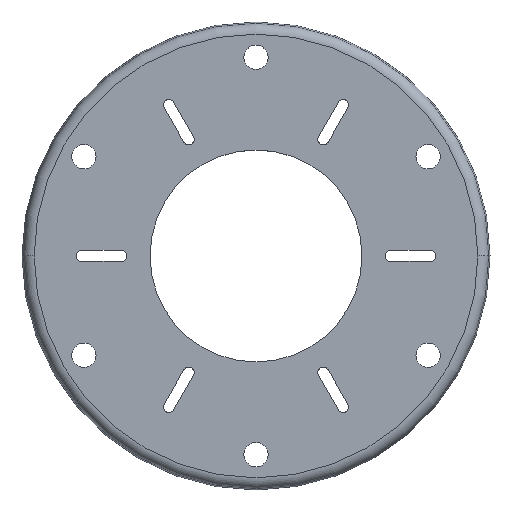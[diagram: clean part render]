
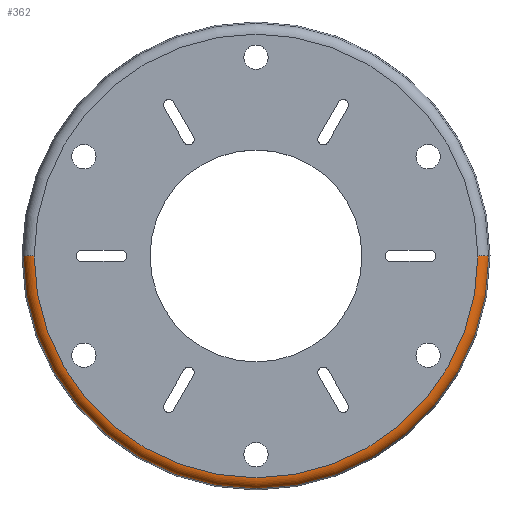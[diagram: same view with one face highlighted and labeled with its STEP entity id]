
A CAD part, top view. The second image highlights one B-rep face of the part: STEP entity #362.
In plain terms, the highlighted toroidal (fillet/blend) face has major radius 50.248 mm and minor radius 2.5 mm.
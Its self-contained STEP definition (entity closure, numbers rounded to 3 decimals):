
#19 = VERTEX_POINT ( 'NONE', #246 ) ;
#41 = AXIS2_PLACEMENT_3D ( 'NONE', #1171, #168, #431 ) ;
#42 = CARTESIAN_POINT ( 'NONE',  ( 0., 0., 0. ) ) ;
#67 = CIRCLE ( 'NONE', #1338, 2.5 ) ;
#69 = CARTESIAN_POINT ( 'NONE',  ( 0., 0., -1.853 ) ) ;
#116 = DIRECTION ( 'NONE',  ( 0., 0., 1. ) ) ;
#123 = DIRECTION ( 'NONE',  ( 1., 0., 0. ) ) ;
#168 = DIRECTION ( 'NONE',  ( 0., -1., 0. ) ) ;
#183 = DIRECTION ( 'NONE',  ( 0., 1., 0. ) ) ;
#190 = EDGE_CURVE ( 'NONE', #1847, #1824, #1094, .T. ) ;
#217 = CARTESIAN_POINT ( 'NONE',  ( 0., 0., -2.5 ) ) ;
#246 = CARTESIAN_POINT ( 'NONE',  ( -50.248, 0., 0. ) ) ;
#276 = AXIS2_PLACEMENT_3D ( 'NONE', #69, #116, #679 ) ;
#362 = ADVANCED_FACE ( 'NONE', ( #498 ), #1096, .T. ) ;
#363 = ORIENTED_EDGE ( 'NONE', *, *, #1403, .F. ) ;
#431 = DIRECTION ( 'NONE',  ( 0., 0., -1. ) ) ;
#498 = FACE_OUTER_BOUND ( 'NONE', #1107, .T. ) ;
#679 = DIRECTION ( 'NONE',  ( 1., 0., 0. ) ) ;
#799 = VERTEX_POINT ( 'NONE', #1114 ) ;
#812 = DIRECTION ( 'NONE',  ( 0., 0., 1. ) ) ;
#864 = CIRCLE ( 'NONE', #1687, 50.248 ) ;
#917 = ORIENTED_EDGE ( 'NONE', *, *, #190, .T. ) ;
#949 = DIRECTION ( 'NONE',  ( 0., 0., 1. ) ) ;
#1082 = DIRECTION ( 'NONE',  ( -1., 0., 0. ) ) ;
#1094 = CIRCLE ( 'NONE', #41, 2.5 ) ;
#1096 = TOROIDAL_SURFACE ( 'NONE', #1164, 50.248, 2.5 ) ;
#1107 = EDGE_LOOP ( 'NONE', ( #363, #1541, #917, #1288 ) ) ;
#1114 = CARTESIAN_POINT ( 'NONE',  ( -52.663, 0., -1.853 ) ) ;
#1164 = AXIS2_PLACEMENT_3D ( 'NONE', #217, #812, #123 ) ;
#1171 = CARTESIAN_POINT ( 'NONE',  ( 50.248, 0., -2.5 ) ) ;
#1241 = CARTESIAN_POINT ( 'NONE',  ( 50.248, 0., 0. ) ) ;
#1258 = CIRCLE ( 'NONE', #276, 52.663 ) ;
#1288 = ORIENTED_EDGE ( 'NONE', *, *, #1697, .F. ) ;
#1338 = AXIS2_PLACEMENT_3D ( 'NONE', #1502, #183, #1082 ) ;
#1403 = EDGE_CURVE ( 'NONE', #799, #19, #67, .T. ) ;
#1502 = CARTESIAN_POINT ( 'NONE',  ( -50.248, 0., -2.5 ) ) ;
#1528 = DIRECTION ( 'NONE',  ( 1., 0., 0. ) ) ;
#1541 = ORIENTED_EDGE ( 'NONE', *, *, #1853, .T. ) ;
#1687 = AXIS2_PLACEMENT_3D ( 'NONE', #42, #949, #1528 ) ;
#1697 = EDGE_CURVE ( 'NONE', #19, #1824, #864, .T. ) ;
#1716 = CARTESIAN_POINT ( 'NONE',  ( 52.663, 0., -1.853 ) ) ;
#1824 = VERTEX_POINT ( 'NONE', #1241 ) ;
#1847 = VERTEX_POINT ( 'NONE', #1716 ) ;
#1853 = EDGE_CURVE ( 'NONE', #799, #1847, #1258, .T. ) ;
